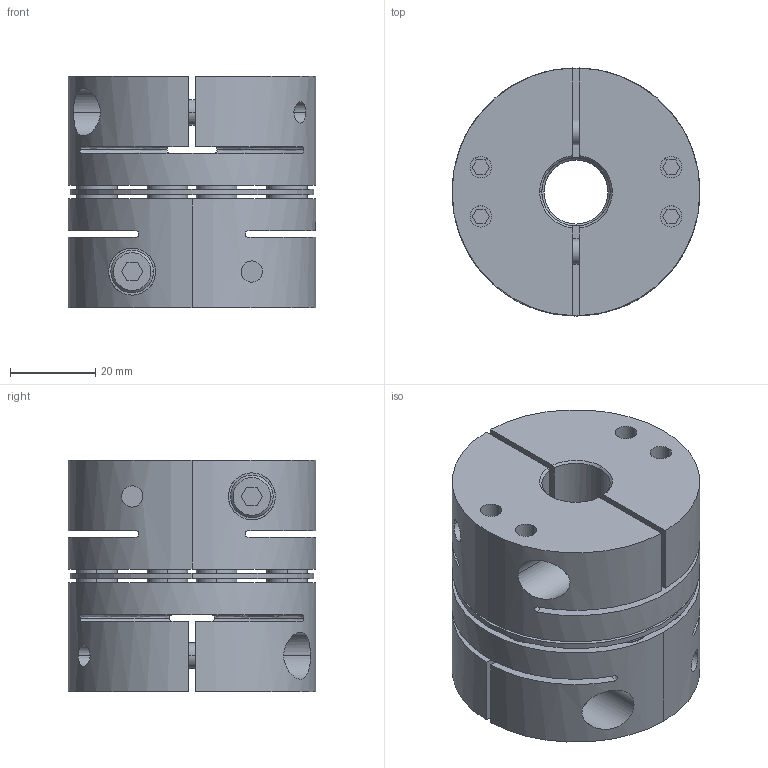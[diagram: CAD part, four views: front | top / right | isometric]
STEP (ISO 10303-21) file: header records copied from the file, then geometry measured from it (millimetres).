
FILE_DESCRIPTION((''),'2;1');
FILE_NAME('TAS-58C-15×16.stp','2022-11-14T21:59:24',(''),(''),'AutoCAD STEP 2000i','AutoCAD 2000i',', , ');
FILE_SCHEMA(('CONFIG_CONTROL_DESIGN'));
Length unit declared in the file: millimetre
Products named in the file (5): TAS-58C-12×12; 忣兜1; TA58C-12-2; CAP-M6×20; TA58C-12
Assembly tree (5 placements, depth 3):
  TAS-58C-12×12
    忣兜1
    TA58C-12-2
      CAP-M6×20
    TA58C-12
      CAP-M6×20
Bounding box: 58 x 58 x 54.25 mm (x, y, z)
Volume: 111046.1 mm3; surface area: 42603.8 mm2
Topology: 1 solids, 1 shells, 360 faces, 893 edges, 611 vertices
Faces by surface type: plane 160, cylinder 148, cone 36, bspline 16
Entity records: 12743 total; most frequent: CARTESIAN_POINT 3829, DIRECTION 1908, ORIENTED_EDGE 1720, EDGE_CURVE 860, AXIS2_PLACEMENT_3D 729, VERTEX_POINT 564, EDGE_LOOP 464, VECTOR 450
